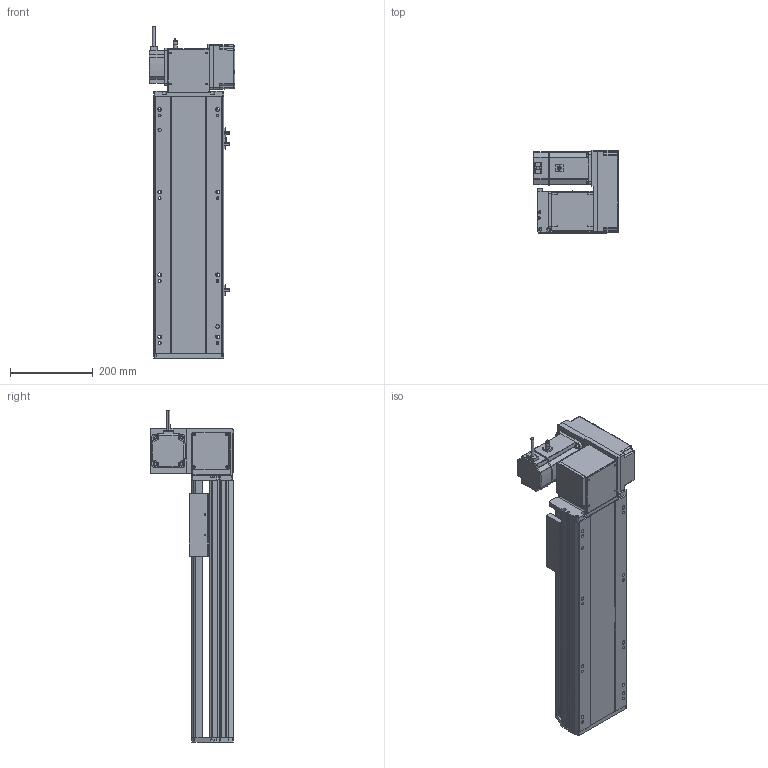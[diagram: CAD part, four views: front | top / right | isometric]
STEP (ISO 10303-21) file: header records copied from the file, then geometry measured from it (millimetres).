
FILE_DESCRIPTION (( 'STEP AP214' ), '1' );
FILE_NAME ('RTB17S-XX-350-RW-M75-C4.STEP', '2025-12-12T02:31:57', ( '' ), ( '' ), 'SwSTEP 2.0', 'SolidWorks 2018', '' );
FILE_SCHEMA (( 'AUTOMOTIVE_DESIGN' ));
Length unit declared in the file: millimetre
Products named in the file (15): 750W萇儂^RTB17S-XX-XX-RW-M75-C4; RTB17S-RW-々湍釱蚾饜-750W^RTB17S-XX-XX-RW-M75-C4; RTB22S-GY-005P^RTB17S-RW-々湍釱蚾饜-750W_RTB17S-XX-XX-RW-M75-C4; RTB17S-L-007奻裔^RTB17S-XX-XX-RW-M75-C4; RMP17S-L-014-T20-P75--々湍釱^RTB17S-RW-々湍釱蚾饜-750W_RTB17S-XX-XX-RW-M75-C4; RTH13-BL-012覜茼え俋离^RTB17S-賑釱_RTB17S-XX-XX-RW-M75-C4; RTB17S-XX-350-RW-M75-C4; RTB17-R-011菁釱^RTB17S-XX-XX-RW-M75-C4; RTB22S-GY-017P^RTB17S-RW-々湍釱蚾饜-750W_RTB17S-XX-XX-RW-M75-C4; RTB22S-GY-018P^RTB17S-RW-々湍釱蚾饜-750W_RTB17S-XX-XX-RW-M75-C4; RTB17S-L-001-耜醱啣^RTB17S-XX-XX-RW-M75-C4; RTB22S-GY-008-M75--萇儂啣^RTB17S-RW-々湍釱蚾饜-750W_RTB17S-XX-XX-RW-M75-C4; EE672^RTB17S-XX-XX-RW-M75-C4; RTB17S-L-004-賑釱^RTB17S-賑釱_RTB17S-XX-XX-RW-M75-C4; RTB17S-賑釱^RTB17S-XX-XX-RW-M75-C4
Assembly tree (17 placements, depth 3):
  RTB17S-XX-350-RW-M75-C4
    RTB17-R-011菁釱^RTB17S-XX-XX-RW-M75-C4
    EE672^RTB17S-XX-XX-RW-M75-C4  x3
    RTB17S-L-001-耜醱啣^RTB17S-XX-XX-RW-M75-C4
    RTB17S-賑釱^RTB17S-XX-XX-RW-M75-C4
      RTB17S-L-004-賑釱^RTB17S-賑釱_RTB17S-XX-XX-RW-M75-C4
      RTH13-BL-012覜茼え俋离^RTB17S-賑釱_RTB17S-XX-XX-RW-M75-C4
    RTB17S-L-007奻裔^RTB17S-XX-XX-RW-M75-C4
    750W萇儂^RTB17S-XX-XX-RW-M75-C4
    RTB17S-RW-々湍釱蚾饜-750W^RTB17S-XX-XX-RW-M75-C4
      RMP17S-L-014-T20-P75--々湍釱^RTB17S-RW-々湍釱蚾饜-750W_RTB17S-XX-XX-RW-M75-C4
      RTB22S-GY-005P^RTB17S-RW-々湍釱蚾饜-750W_RTB17S-XX-XX-RW-M75-C4
      RTB22S-GY-017P^RTB17S-RW-々湍釱蚾饜-750W_RTB17S-XX-XX-RW-M75-C4  x2
      RTB22S-GY-008-M75--萇儂啣^RTB17S-RW-々湍釱蚾饜-750W_RTB17S-XX-XX-RW-M75-C4
      RTB22S-GY-018P^RTB17S-RW-々湍釱蚾饜-750W_RTB17S-XX-XX-RW-M75-C4
Bounding box: 207.4 x 201.5 x 802.2 mm (x, y, z)
Volume: 8137885.8 mm3; surface area: 1272505.1 mm2
Topology: 17 solids, 17 shells, 2041 faces, 5620 edges, 3626 vertices
Faces by surface type: plane 964, cylinder 661, bspline 294, cone 110, sphere 8, torus 4
Entity records: 55798 total; most frequent: CARTESIAN_POINT 16284, ORIENTED_EDGE 8084, DIRECTION 7592, EDGE_CURVE 4042, AXIS2_PLACEMENT_3D 2646, VERTEX_POINT 2630, LINE 2300, VECTOR 2300
